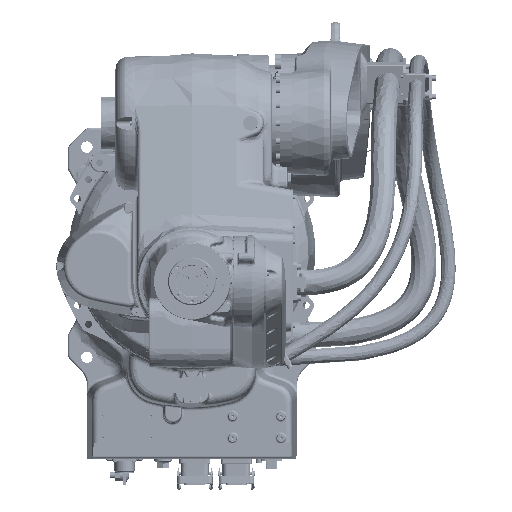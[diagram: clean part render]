
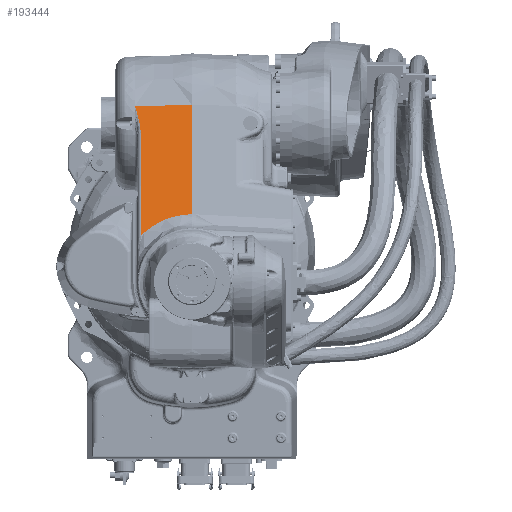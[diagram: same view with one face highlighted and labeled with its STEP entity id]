
A CAD part, top view. The second image highlights one B-rep face of the part: STEP entity #193444.
In plain terms, the highlighted planar face has unit normal (-0.052, 0.259, 0.965).
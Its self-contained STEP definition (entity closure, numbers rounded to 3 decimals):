
#193373=CARTESIAN_POINT('Axis2P3D Location',(0.,28.47,106.252)) ;
#193379=CARTESIAN_POINT('Control Point',(0.,-142.765,152.134)) ;
#193380=CARTESIAN_POINT('Control Point',(-7.731,-142.87,151.743)) ;
#193381=CARTESIAN_POINT('Control Point',(-15.464,-143.626,151.526)) ;
#193382=CARTESIAN_POINT('Control Point',(-23.119,-145.033,151.488)) ;
#193383=CARTESIAN_POINT('Control Point',(-38.661,-149.274,151.781)) ;
#193384=CARTESIAN_POINT('Control Point',(-53.212,-156.129,152.828)) ;
#193385=CARTESIAN_POINT('Control Point',(-60.387,-160.341,153.567)) ;
#193386=CARTESIAN_POINT('Control Point',(-68.674,-166.268,154.706)) ;
#193387=CARTESIAN_POINT('Control Point',(-76.206,-173.012,156.104)) ;
#193388=CARTESIAN_POINT('Control Point',(-77.587,-174.3,156.374)) ;
#193389=CARTESIAN_POINT('Control Point',(-78.938,-175.614,156.653)) ;
#193390=CARTESIAN_POINT('Control Point',(-80.262,-176.954,156.94)) ;
#193391=CARTESIAN_POINT('Vertex',(-80.262,-176.954,156.94)) ;
#193393=CARTESIAN_POINT('Vertex',(0.,-142.765,152.134)) ;
#193396=CARTESIAN_POINT('Line Origine',(0.,-57.147,129.193)) ;
#193400=CARTESIAN_POINT('Vertex',(0.,28.47,106.252)) ;
#193403=CARTESIAN_POINT('Line Origine',(-44.869,27.861,103.98)) ;
#193407=CARTESIAN_POINT('Vertex',(-89.738,27.253,101.709)) ;
#193411=CARTESIAN_POINT('Control Point',(-80.262,-15.85,113.773)) ;
#193412=CARTESIAN_POINT('Control Point',(-80.262,-13.814,113.227)) ;
#193413=CARTESIAN_POINT('Control Point',(-80.353,-11.786,112.679)) ;
#193414=CARTESIAN_POINT('Control Point',(-80.519,-9.771,112.13)) ;
#193415=CARTESIAN_POINT('Control Point',(-81.047,-5.15,110.863)) ;
#193416=CARTESIAN_POINT('Control Point',(-81.863,-0.599,109.599)) ;
#193417=CARTESIAN_POINT('Control Point',(-82.399,1.958,108.885)) ;
#193418=CARTESIAN_POINT('Control Point',(-83.794,7.909,107.215)) ;
#193419=CARTESIAN_POINT('Control Point',(-85.454,13.761,105.557)) ;
#193420=CARTESIAN_POINT('Control Point',(-86.465,17.095,104.608)) ;
#193421=CARTESIAN_POINT('Control Point',(-87.67,20.896,103.525)) ;
#193422=CARTESIAN_POINT('Control Point',(-88.9,24.686,102.442)) ;
#193423=CARTESIAN_POINT('Control Point',(-89.102,25.306,102.265)) ;
#193424=CARTESIAN_POINT('Control Point',(-89.323,25.986,102.071)) ;
#193425=CARTESIAN_POINT('Control Point',(-89.546,26.665,101.877)) ;
#193426=CARTESIAN_POINT('Control Point',(-89.61,26.861,101.821)) ;
#193427=CARTESIAN_POINT('Control Point',(-89.674,27.057,101.765)) ;
#193428=CARTESIAN_POINT('Control Point',(-89.738,27.253,101.709)) ;
#193429=CARTESIAN_POINT('Vertex',(-80.262,-15.85,113.773)) ;
#193432=CARTESIAN_POINT('Line Origine',(-80.262,-96.402,135.357)) ;
#193374=DIRECTION('Axis2P3D Direction',(-0.052,0.258,0.965)) ;
#193375=DIRECTION('Axis2P3D XDirection',(0.,-0.966,0.259)) ;
#193397=DIRECTION('Vector Direction',(0.,-0.966,0.259)) ;
#193404=DIRECTION('Vector Direction',(0.999,0.014,0.051)) ;
#193433=DIRECTION('Vector Direction',(0.,-0.966,0.259)) ;
#193376=AXIS2_PLACEMENT_3D('Plane Axis2P3D',#193373,#193374,#193375) ;
#193438=ORIENTED_EDGE('',*,*,#193395,.T.) ;
#193439=ORIENTED_EDGE('',*,*,#193402,.T.) ;
#193440=ORIENTED_EDGE('',*,*,#193409,.F.) ;
#193441=ORIENTED_EDGE('',*,*,#193431,.F.) ;
#193442=ORIENTED_EDGE('',*,*,#193436,.F.) ;
#193398=VECTOR('Line Direction',#193397,1.) ;
#193405=VECTOR('Line Direction',#193404,1.) ;
#193434=VECTOR('Line Direction',#193433,1.) ;
#193444=ADVANCED_FACE('J3',(#193443),#193377,.T.) ;
#193378=B_SPLINE_CURVE_WITH_KNOTS('',5,(#193379,#193380,#193381,#193382,#193383,#193384,#193385,#193386,#193387,#193388,#193389,#193390),.UNSPECIFIED.,.F.,.U.,(6,3,3,6),(0.,54.79,113.585,127.089),.UNSPECIFIED.) ;
#193410=B_SPLINE_CURVE_WITH_KNOTS('',5,(#193411,#193412,#193413,#193414,#193415,#193416,#193417,#193418,#193419,#193420,#193421,#193422,#193423,#193424,#193425,#193426,#193427,#193428),.UNSPECIFIED.,.F.,.U.,(6,3,3,3,3,6),(0.,14.614,33.719,59.449,63.215,64.743),.UNSPECIFIED.) ;
#193395=EDGE_CURVE('',#193392,#193394,#193378,.F.) ;
#193402=EDGE_CURVE('',#193394,#193401,#193399,.F.) ;
#193409=EDGE_CURVE('',#193408,#193401,#193406,.T.) ;
#193431=EDGE_CURVE('',#193430,#193408,#193410,.T.) ;
#193436=EDGE_CURVE('',#193392,#193430,#193435,.F.) ;
#193437=EDGE_LOOP('',(#193438,#193439,#193440,#193441,#193442)) ;
#193443=FACE_OUTER_BOUND('',#193437,.T.) ;
#193399=LINE('Line',#193396,#193398) ;
#193406=LINE('Line',#193403,#193405) ;
#193435=LINE('Line',#193432,#193434) ;
#193377=PLANE('',#193376) ;
#193392=VERTEX_POINT('',#193391) ;
#193394=VERTEX_POINT('',#193393) ;
#193401=VERTEX_POINT('',#193400) ;
#193408=VERTEX_POINT('',#193407) ;
#193430=VERTEX_POINT('',#193429) ;
